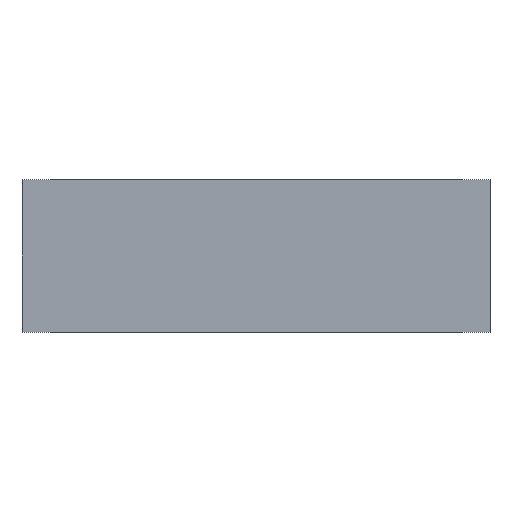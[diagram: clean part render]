
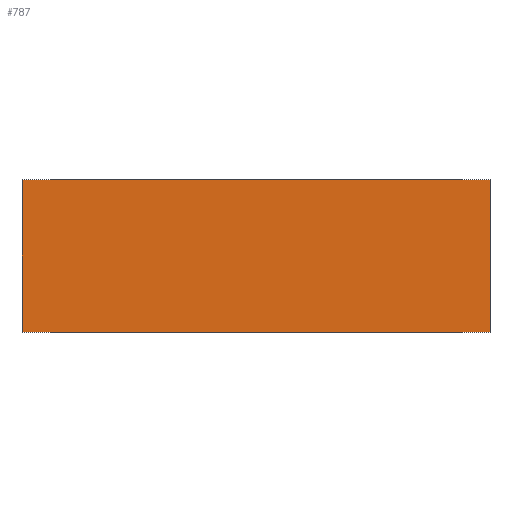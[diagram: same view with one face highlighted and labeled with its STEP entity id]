
A CAD part, front view. The second image highlights one B-rep face of the part: STEP entity #787.
In plain terms, the highlighted planar face has unit normal (0, -1, 0).
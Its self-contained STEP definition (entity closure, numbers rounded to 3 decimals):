
#147 = EDGE_LOOP ( 'NONE', ( #768, #767, #766, #765 ) ) ;
#170 = VERTEX_POINT ( 'NONE', #327 ) ;
#196 = VERTEX_POINT ( 'NONE', #306 ) ;
#199 = VERTEX_POINT ( 'NONE', #300 ) ;
#210 = VERTEX_POINT ( 'NONE', #284 ) ;
#217 = CARTESIAN_POINT ( 'NONE',  ( -100., 0., 0. ) ) ;
#220 = DIRECTION ( 'NONE',  ( 1., 0., 0. ) ) ;
#268 = DIRECTION ( 'NONE',  ( 1., 0., 0. ) ) ;
#270 = CARTESIAN_POINT ( 'NONE',  ( -100., 0., 65. ) ) ;
#284 = CARTESIAN_POINT ( 'NONE',  ( -100., 0., 0. ) ) ;
#300 = CARTESIAN_POINT ( 'NONE',  ( 100., 0., 65. ) ) ;
#306 = CARTESIAN_POINT ( 'NONE',  ( -100., 0., 65. ) ) ;
#327 = CARTESIAN_POINT ( 'NONE',  ( 100., 0., 0. ) ) ;
#353 = EDGE_CURVE ( 'NONE', #196, #199, #721, .T. ) ;
#376 = EDGE_CURVE ( 'NONE', #210, #170, #698, .T. ) ;
#382 = EDGE_CURVE ( 'NONE', #199, #170, #663, .T. ) ;
#383 = EDGE_CURVE ( 'NONE', #196, #210, #661, .T. ) ;
#553 = DIRECTION ( 'NONE',  ( -1., 0., 0. ) ) ;
#554 = DIRECTION ( 'NONE',  ( 0., 1., 0. ) ) ;
#564 = CARTESIAN_POINT ( 'NONE',  ( -100., 0., 65. ) ) ;
#569 = PLANE ( 'NONE',  #892 ) ;
#589 = DIRECTION ( 'NONE',  ( 0., 0., -1. ) ) ;
#612 = DIRECTION ( 'NONE',  ( 0., 0., -1. ) ) ;
#615 = CARTESIAN_POINT ( 'NONE',  ( 100., 0., 65. ) ) ;
#618 = CARTESIAN_POINT ( 'NONE',  ( -100., 0., 65. ) ) ;
#660 = VECTOR ( 'NONE', #589, 1000. ) ;
#661 = LINE ( 'NONE', #618, #660 ) ;
#662 = VECTOR ( 'NONE', #612, 1000. ) ;
#663 = LINE ( 'NONE', #615, #662 ) ;
#674 = VECTOR ( 'NONE', #220, 1000. ) ;
#698 = LINE ( 'NONE', #217, #674 ) ;
#720 = VECTOR ( 'NONE', #268, 1000. ) ;
#721 = LINE ( 'NONE', #270, #720 ) ;
#765 = ORIENTED_EDGE ( 'NONE', *, *, #383, .T. ) ;
#766 = ORIENTED_EDGE ( 'NONE', *, *, #353, .F. ) ;
#767 = ORIENTED_EDGE ( 'NONE', *, *, #382, .F. ) ;
#768 = ORIENTED_EDGE ( 'NONE', *, *, #376, .T. ) ;
#787 = ADVANCED_FACE ( 'NONE', ( #856 ), #569, .F. ) ;
#856 = FACE_OUTER_BOUND ( 'NONE', #147, .T. ) ;
#892 = AXIS2_PLACEMENT_3D ( 'NONE', #564, #554, #553 ) ;
